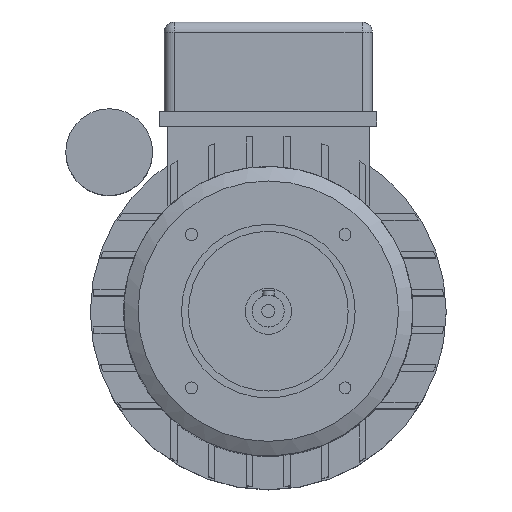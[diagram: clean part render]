
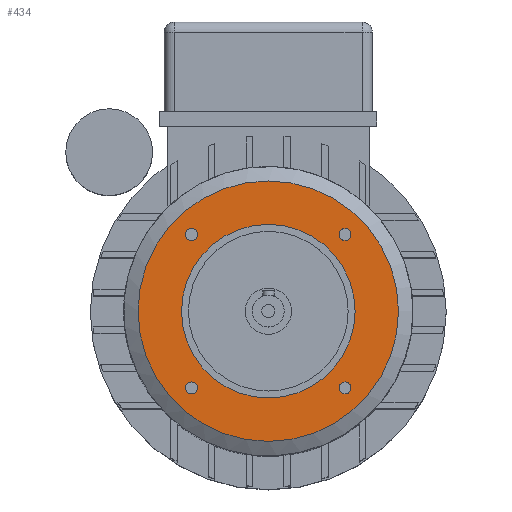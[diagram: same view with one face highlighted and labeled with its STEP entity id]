
A CAD part, top view. The second image highlights one B-rep face of the part: STEP entity #434.
In plain terms, the highlighted planar face has unit normal (0, 0, 1).
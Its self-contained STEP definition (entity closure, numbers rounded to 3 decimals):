
#434 = ADVANCED_FACE( '', ( #940, #941, #942, #943, #944, #945 ), #946, .F. );
#940 = FACE_BOUND( '', #1517, .T. );
#941 = FACE_BOUND( '', #1518, .T. );
#942 = FACE_BOUND( '', #1519, .T. );
#943 = FACE_OUTER_BOUND( '', #1520, .T. );
#944 = FACE_BOUND( '', #1521, .T. );
#945 = FACE_BOUND( '', #1522, .T. );
#946 = PLANE( '', #1523 );
#1517 = EDGE_LOOP( '', ( #2701 ) );
#1518 = EDGE_LOOP( '', ( #2702 ) );
#1519 = EDGE_LOOP( '', ( #2703 ) );
#1520 = EDGE_LOOP( '', ( #2704 ) );
#1521 = EDGE_LOOP( '', ( #2705 ) );
#1522 = EDGE_LOOP( '', ( #2706 ) );
#1523 = AXIS2_PLACEMENT_3D( '', #2707, #2708, #2709 );
#2701 = ORIENTED_EDGE( '', *, *, #3640, .T. );
#2702 = ORIENTED_EDGE( '', *, *, #3855, .T. );
#2703 = ORIENTED_EDGE( '', *, *, #3431, .T. );
#2704 = ORIENTED_EDGE( '', *, *, #3856, .T. );
#2705 = ORIENTED_EDGE( '', *, *, #3857, .T. );
#2706 = ORIENTED_EDGE( '', *, *, #3858, .T. );
#2707 = CARTESIAN_POINT( '', ( 0., 0., 23. ) );
#2708 = DIRECTION( '', ( 0., 0., -1. ) );
#2709 = DIRECTION( '', ( 0., 1., 0. ) );
#3431 = EDGE_CURVE( '', #4119, #4119, #4120, .T. );
#3640 = EDGE_CURVE( '', #4479, #4479, #4480, .T. );
#3855 = EDGE_CURVE( '', #4780, #4780, #4781, .T. );
#3856 = EDGE_CURVE( '', #4782, #4782, #4783, .F. );
#3857 = EDGE_CURVE( '', #4784, #4784, #4785, .T. );
#3858 = EDGE_CURVE( '', #4786, #4786, #4787, .T. );
#4119 = VERTEX_POINT( '', #5095 );
#4120 = CIRCLE( '', #5096, 2.065 );
#4479 = VERTEX_POINT( '', #5559 );
#4480 = CIRCLE( '', #5560, 2.065 );
#4780 = VERTEX_POINT( '', #6022 );
#4781 = CIRCLE( '', #6023, 2.065 );
#4782 = VERTEX_POINT( '', #6024 );
#4783 = CIRCLE( '', #6025, 45. );
#4784 = VERTEX_POINT( '', #6026 );
#4785 = CIRCLE( '', #6027, 30. );
#4786 = VERTEX_POINT( '', #6028 );
#4787 = CIRCLE( '', #6029, 2.065 );
#5095 = CARTESIAN_POINT( '', ( 26.517, -28.582, 23. ) );
#5096 = AXIS2_PLACEMENT_3D( '', #6333, #6334, #6335 );
#5559 = CARTESIAN_POINT( '', ( -26.517, 28.582, 23. ) );
#5560 = AXIS2_PLACEMENT_3D( '', #6662, #6663, #6664 );
#6022 = CARTESIAN_POINT( '', ( -28.582, -26.517, 23. ) );
#6023 = AXIS2_PLACEMENT_3D( '', #6895, #6896, #6897 );
#6024 = CARTESIAN_POINT( '', ( 45., 0., 23. ) );
#6025 = AXIS2_PLACEMENT_3D( '', #6898, #6899, #6900 );
#6026 = CARTESIAN_POINT( '', ( 30., 0., 23. ) );
#6027 = AXIS2_PLACEMENT_3D( '', #6901, #6902, #6903 );
#6028 = CARTESIAN_POINT( '', ( 28.582, 26.517, 23. ) );
#6029 = AXIS2_PLACEMENT_3D( '', #6904, #6905, #6906 );
#6333 = CARTESIAN_POINT( '', ( 26.517, -26.517, 23. ) );
#6334 = DIRECTION( '', ( 0., 0., -1. ) );
#6335 = DIRECTION( '', ( 0., -1., 0. ) );
#6662 = CARTESIAN_POINT( '', ( -26.517, 26.517, 23. ) );
#6663 = DIRECTION( '', ( 0., 0., -1. ) );
#6664 = DIRECTION( '', ( 0., 1., 0. ) );
#6895 = CARTESIAN_POINT( '', ( -26.517, -26.517, 23. ) );
#6896 = DIRECTION( '', ( 0., 0., -1. ) );
#6897 = DIRECTION( '', ( -1., 0., 0. ) );
#6898 = CARTESIAN_POINT( '', ( 0., 0., 23. ) );
#6899 = DIRECTION( '', ( 0., 0., -1. ) );
#6900 = DIRECTION( '', ( 1., 0., 0. ) );
#6901 = CARTESIAN_POINT( '', ( 0., 0., 23. ) );
#6902 = DIRECTION( '', ( 0., 0., -1. ) );
#6903 = DIRECTION( '', ( 1., 0., 0. ) );
#6904 = CARTESIAN_POINT( '', ( 26.517, 26.517, 23. ) );
#6905 = DIRECTION( '', ( 0., 0., -1. ) );
#6906 = DIRECTION( '', ( 1., 0., 0. ) );
